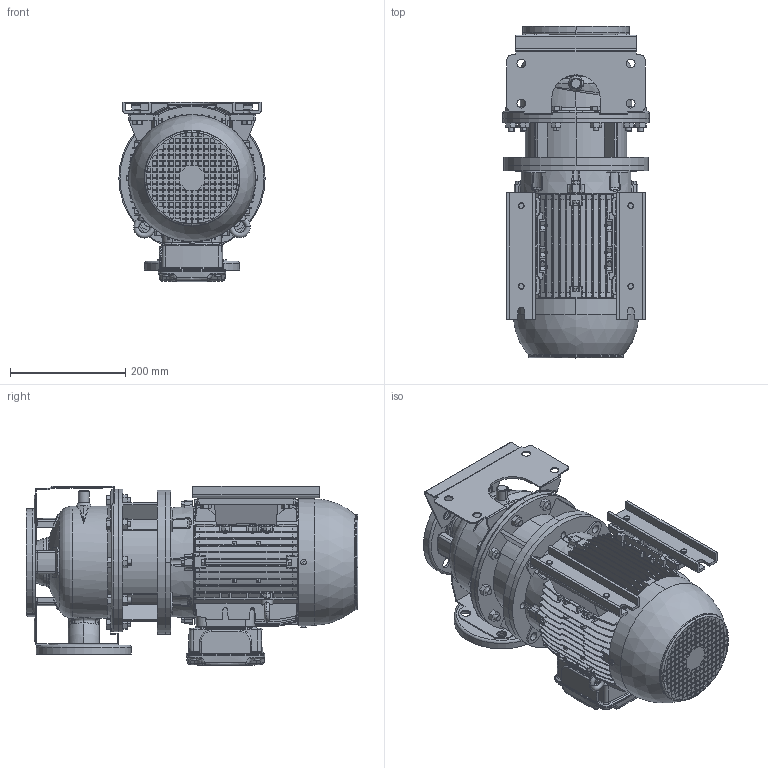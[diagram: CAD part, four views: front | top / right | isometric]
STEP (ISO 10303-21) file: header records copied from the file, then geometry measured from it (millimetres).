
FILE_DESCRIPTION (( 'STEP AP214' ), '1' );
FILE_NAME ('3LS 50-125_4.0_(112M)_W21.STEP', '2026-04-29T04:25:17', ( '' ), ( '' ), 'SwSTEP 2.0', 'SolidWorks 2024', '' );
FILE_SCHEMA (( 'AUTOMOTIVE_DESIGN' ));
Length unit declared in the file: inch
Products named in the file (4): 3LS 50-125_4.0_(112M)_W21; 50-125_4_ie2_STEP; 112M ALIE3_W21T_B35; Bolt & Washer M10 x 20.STEP
Assembly tree (6 placements, depth 2):
  3LS 50-125_4.0_(112M)_W21
    50-125_4_ie2_STEP
    112M ALIE3_W21T_B35
    Bolt & Washer M10 x 20.STEP  x4
Bounding box: 254 x 576.1 x 312 mm (x, y, z)
Volume: 17280058.3 mm3; surface area: 1651099.4 mm2
Topology: 24 solids, 26 shells, 4391 faces, 11750 edges, 7694 vertices
Faces by surface type: plane 2566, cylinder 847, bspline 402, cone 311, torus 248, sphere 17
Entity records: 176474 total; most frequent: CARTESIAN_POINT 73113, ORIENTED_EDGE 23086, DIRECTION 18854, EDGE_CURVE 11543, VERTEX_POINT 7568, VECTOR 6940, LINE 6940, AXIS2_PLACEMENT_3D 5957
